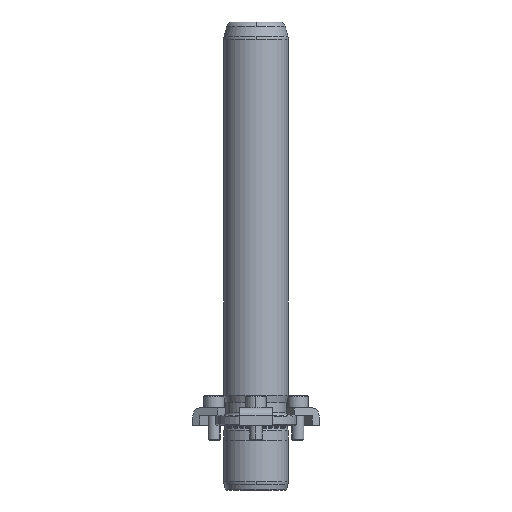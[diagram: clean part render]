
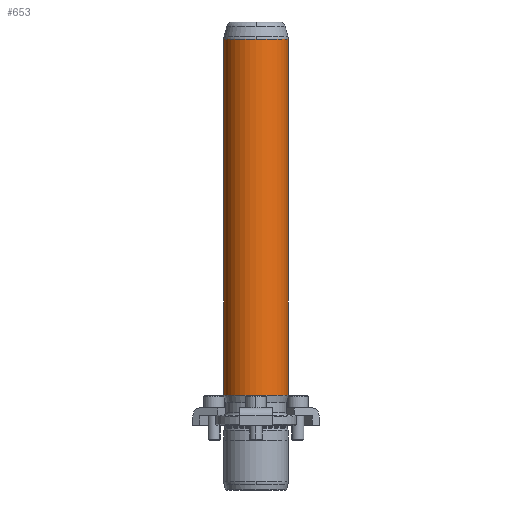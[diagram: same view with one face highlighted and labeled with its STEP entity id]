
A CAD part, front view. The second image highlights one B-rep face of the part: STEP entity #653.
In plain terms, the highlighted cylindrical face has radius 16 mm (diameter 32 mm), a partial arc.
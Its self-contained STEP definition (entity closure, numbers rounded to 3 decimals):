
#566=CARTESIAN_POINT('',(0.0,-16.,191.342));
#567=VERTEX_POINT('',#566);
#594=CARTESIAN_POINT('',(-16.0,0.,191.342));
#595=VERTEX_POINT('',#594);
#603=CARTESIAN_POINT('',(0.0,0.,191.342));
#604=DIRECTION('',(0.0,0.0,1.0));
#605=DIRECTION('',(1.0,0.0,0.0));
#606=AXIS2_PLACEMENT_3D('',#603,#604,#605);
#607=CIRCLE('',#606,16.0);
#608=EDGE_CURVE('',#595,#567,#607,.T.);
#613=CARTESIAN_POINT('',(0.0,0.,103.171));
#614=DIRECTION('',(0.0,0.,1.0));
#615=DIRECTION('',(1.0,0.0,0.0));
#616=AXIS2_PLACEMENT_3D('',#613,#614,#615);
#617=CYLINDRICAL_SURFACE('',#616,16.0);
#618=CARTESIAN_POINT('',(16.0,0.,191.342));
#619=VERTEX_POINT('',#618);
#620=CARTESIAN_POINT('',(16.0,0.,15.0));
#621=VERTEX_POINT('',#620);
#622=CARTESIAN_POINT('',(16.0,0.,191.342));
#623=DIRECTION('',(0.0,0.0,-1.0));
#624=VECTOR('',#623,176.342);
#625=LINE('',#622,#624);
#626=EDGE_CURVE('',#619,#621,#625,.T.);
#627=ORIENTED_EDGE('',*,*,#626,.F.);
#628=CARTESIAN_POINT('',(0.0,0.,191.342));
#629=DIRECTION('',(0.0,0.0,1.0));
#630=DIRECTION('',(1.0,0.0,0.0));
#631=AXIS2_PLACEMENT_3D('',#628,#629,#630);
#632=CIRCLE('',#631,16.0);
#633=EDGE_CURVE('',#567,#619,#632,.T.);
#634=ORIENTED_EDGE('',*,*,#633,.F.);
#635=ORIENTED_EDGE('',*,*,#608,.F.);
#636=CARTESIAN_POINT('',(-16.0,0.,15.0));
#637=VERTEX_POINT('',#636);
#638=CARTESIAN_POINT('',(-16.0,0.,191.342));
#639=DIRECTION('',(0.0,0.0,-1.0));
#640=VECTOR('',#639,176.342);
#641=LINE('',#638,#640);
#642=EDGE_CURVE('',#595,#637,#641,.T.);
#643=ORIENTED_EDGE('',*,*,#642,.T.);
#644=CARTESIAN_POINT('',(0.0,0.,15.0));
#645=DIRECTION('',(0.0,0.0,1.0));
#646=DIRECTION('',(1.0,0.0,0.0));
#647=AXIS2_PLACEMENT_3D('',#644,#645,#646);
#648=CIRCLE('',#647,16.0);
#649=EDGE_CURVE('',#637,#621,#648,.T.);
#650=ORIENTED_EDGE('',*,*,#649,.T.);
#651=EDGE_LOOP('',(#627,#634,#635,#643,#650));
#652=FACE_OUTER_BOUND('',#651,.T.);
#653=ADVANCED_FACE('',(#652),#617,.T.);
